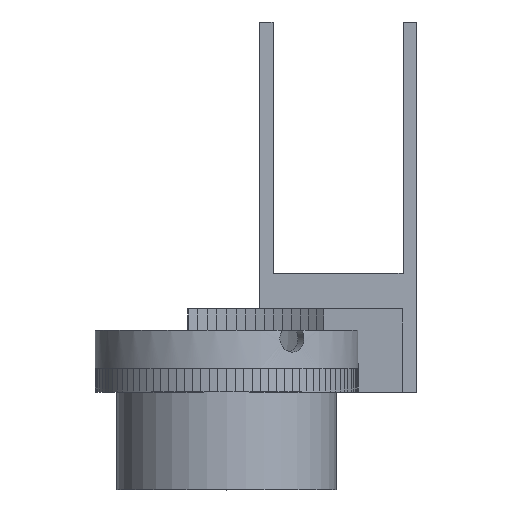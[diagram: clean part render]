
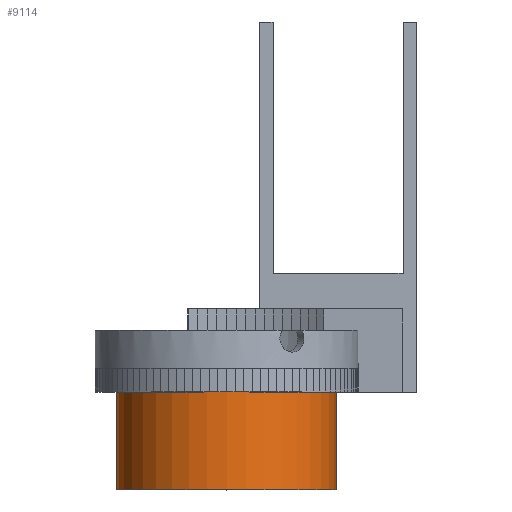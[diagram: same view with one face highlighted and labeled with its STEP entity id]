
A CAD part, top view. The second image highlights one B-rep face of the part: STEP entity #9114.
In plain terms, the highlighted cylindrical face has radius 27.5 mm (diameter 55 mm), a full revolution.
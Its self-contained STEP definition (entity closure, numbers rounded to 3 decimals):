
#389 = PLANE('',#390);
#390 = AXIS2_PLACEMENT_3D('',#391,#392,#393);
#391 = CARTESIAN_POINT('',(44.3,-66.,-54.5));
#392 = DIRECTION('',(-0.,1.,0.));
#393 = DIRECTION('',(0.,0.,-1.));
#3361 = EDGE_CURVE('',#3362,#3362,#3364,.T.);
#3362 = VERTEX_POINT('',#3363);
#3363 = CARTESIAN_POINT('',(27.5,-66.,0.));
#3364 = SURFACE_CURVE('',#3365,(#3370,#3381),.PCURVE_S1.);
#3365 = CIRCLE('',#3366,27.5);
#3366 = AXIS2_PLACEMENT_3D('',#3367,#3368,#3369);
#3367 = CARTESIAN_POINT('',(0.,-66.,0.));
#3368 = DIRECTION('',(0.,-1.,-0.));
#3369 = DIRECTION('',(1.,0.,0.));
#3370 = PCURVE('',#389,#3371);
#3371 = DEFINITIONAL_REPRESENTATION('',(#3372),#3380);
#3372 = ( BOUNDED_CURVE() B_SPLINE_CURVE(2,(#3373,#3374,#3375,#3376,
#3377,#3378,#3379),.UNSPECIFIED.,.T.,.F.) B_SPLINE_CURVE_WITH_KNOTS((1,2
    ,2,2,2,1),(-2.094,0.,2.094,4.189,
6.283,8.378),.UNSPECIFIED.) CURVE() 
GEOMETRIC_REPRESENTATION_ITEM() RATIONAL_B_SPLINE_CURVE((1.,0.5,1.,0.5,
1.,0.5,1.)) REPRESENTATION_ITEM('') );
#3373 = CARTESIAN_POINT('',(-54.5,16.8));
#3374 = CARTESIAN_POINT('',(-102.131,16.8));
#3375 = CARTESIAN_POINT('',(-78.316,58.05));
#3376 = CARTESIAN_POINT('',(-54.5,99.3));
#3377 = CARTESIAN_POINT('',(-30.684,58.05));
#3378 = CARTESIAN_POINT('',(-6.869,16.8));
#3379 = CARTESIAN_POINT('',(-54.5,16.8));
#3380 = ( GEOMETRIC_REPRESENTATION_CONTEXT(2) 
PARAMETRIC_REPRESENTATION_CONTEXT() REPRESENTATION_CONTEXT('2D SPACE',''
  ) );
#3381 = PCURVE('',#3382,#3387);
#3382 = CYLINDRICAL_SURFACE('',#3383,27.5);
#3383 = AXIS2_PLACEMENT_3D('',#3384,#3385,#3386);
#3384 = CARTESIAN_POINT('',(0.,-90.5,0.));
#3385 = DIRECTION('',(0.,-1.,-0.));
#3386 = DIRECTION('',(1.,0.,0.));
#3387 = DEFINITIONAL_REPRESENTATION('',(#3388),#3392);
#3388 = LINE('',#3389,#3390);
#3389 = CARTESIAN_POINT('',(-6.283,-24.5));
#3390 = VECTOR('',#3391,1.);
#3391 = DIRECTION('',(1.,-0.));
#3392 = ( GEOMETRIC_REPRESENTATION_CONTEXT(2) 
PARAMETRIC_REPRESENTATION_CONTEXT() REPRESENTATION_CONTEXT('2D SPACE',''
  ) );
#9114 = ADVANCED_FACE('',(#9115),#3382,.T.);
#9115 = FACE_BOUND('',#9116,.F.);
#9116 = EDGE_LOOP('',(#9117,#9146,#9167,#9168));
#9117 = ORIENTED_EDGE('',*,*,#9118,.F.);
#9118 = EDGE_CURVE('',#9119,#9119,#9121,.T.);
#9119 = VERTEX_POINT('',#9120);
#9120 = CARTESIAN_POINT('',(27.5,-90.5,0.));
#9121 = SURFACE_CURVE('',#9122,(#9127,#9134),.PCURVE_S1.);
#9122 = CIRCLE('',#9123,27.5);
#9123 = AXIS2_PLACEMENT_3D('',#9124,#9125,#9126);
#9124 = CARTESIAN_POINT('',(0.,-90.5,0.));
#9125 = DIRECTION('',(-0.,1.,0.));
#9126 = DIRECTION('',(1.,0.,0.));
#9127 = PCURVE('',#3382,#9128);
#9128 = DEFINITIONAL_REPRESENTATION('',(#9129),#9133);
#9129 = LINE('',#9130,#9131);
#9130 = CARTESIAN_POINT('',(-0.,0.));
#9131 = VECTOR('',#9132,1.);
#9132 = DIRECTION('',(-1.,0.));
#9133 = ( GEOMETRIC_REPRESENTATION_CONTEXT(2) 
PARAMETRIC_REPRESENTATION_CONTEXT() REPRESENTATION_CONTEXT('2D SPACE',''
  ) );
#9134 = PCURVE('',#9135,#9140);
#9135 = PLANE('',#9136);
#9136 = AXIS2_PLACEMENT_3D('',#9137,#9138,#9139);
#9137 = CARTESIAN_POINT('',(0.,-90.5,
    0.));
#9138 = DIRECTION('',(0.,1.,0.));
#9139 = DIRECTION('',(0.,-0.,1.));
#9140 = DEFINITIONAL_REPRESENTATION('',(#9141),#9145);
#9141 = CIRCLE('',#9142,27.5);
#9142 = AXIS2_PLACEMENT_2D('',#9143,#9144);
#9143 = CARTESIAN_POINT('',(0.,0.));
#9144 = DIRECTION('',(0.,1.));
#9145 = ( GEOMETRIC_REPRESENTATION_CONTEXT(2) 
PARAMETRIC_REPRESENTATION_CONTEXT() REPRESENTATION_CONTEXT('2D SPACE',''
  ) );
#9146 = ORIENTED_EDGE('',*,*,#9147,.T.);
#9147 = EDGE_CURVE('',#9119,#3362,#9148,.T.);
#9148 = SEAM_CURVE('',#9149,(#9153,#9160),.PCURVE_S1.);
#9149 = LINE('',#9150,#9151);
#9150 = CARTESIAN_POINT('',(27.5,-90.5,0.));
#9151 = VECTOR('',#9152,1.);
#9152 = DIRECTION('',(0.,1.,0.));
#9153 = PCURVE('',#3382,#9154);
#9154 = DEFINITIONAL_REPRESENTATION('',(#9155),#9159);
#9155 = LINE('',#9156,#9157);
#9156 = CARTESIAN_POINT('',(-6.283,0.));
#9157 = VECTOR('',#9158,1.);
#9158 = DIRECTION('',(-0.,-1.));
#9159 = ( GEOMETRIC_REPRESENTATION_CONTEXT(2) 
PARAMETRIC_REPRESENTATION_CONTEXT() REPRESENTATION_CONTEXT('2D SPACE',''
  ) );
#9160 = PCURVE('',#3382,#9161);
#9161 = DEFINITIONAL_REPRESENTATION('',(#9162),#9166);
#9162 = LINE('',#9163,#9164);
#9163 = CARTESIAN_POINT('',(-0.,0.));
#9164 = VECTOR('',#9165,1.);
#9165 = DIRECTION('',(-0.,-1.));
#9166 = ( GEOMETRIC_REPRESENTATION_CONTEXT(2) 
PARAMETRIC_REPRESENTATION_CONTEXT() REPRESENTATION_CONTEXT('2D SPACE',''
  ) );
#9167 = ORIENTED_EDGE('',*,*,#3361,.F.);
#9168 = ORIENTED_EDGE('',*,*,#9147,.F.);
